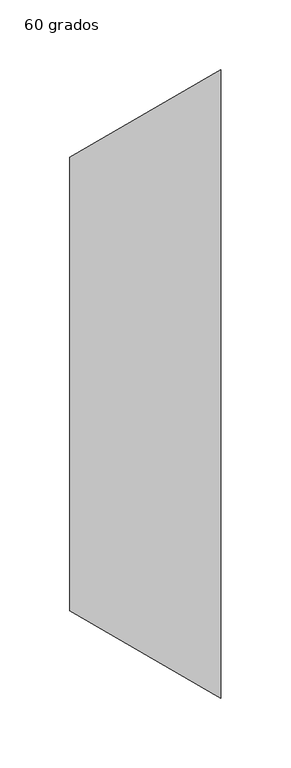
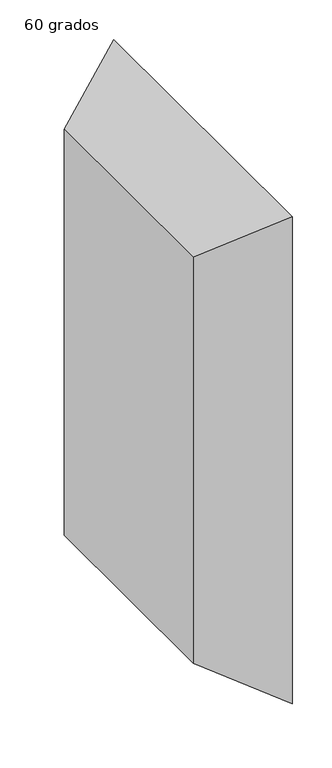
"""IFC4 building model written with IfcOpenShell, lengths in millimetres: duct fitting geometry, M_Transición rectangular - Ángulo : 60 grados."""

from ifc_helpers import new_model, si_unit, origin, place, context, project, spatial, faceted_brep, source, transform, mapped, element, save


def duct_fitting_60_grados_d5850524(model_context):
    return source(origin(), model_context, "Body", "Brep", [
        faceted_brep([(108.2531755, -225.0, 375.0), (108.2531755, -225.0, -375.0), (108.2531755, 225.0, -375.0), (108.2531755, 225.0, 375.0), (0.0, -162.5, 312.5), (0.0, 162.5, 312.5), (0.0, 162.5, -312.5), (0.0, -162.5, -312.5)], [[[0, 1, 2, 3]], [[4, 5, 6, 7]], [[4, 7, 1, 0]], [[7, 6, 2, 1]], [[6, 5, 3, 2]], [[5, 4, 0, 3]]]),
    ])


if __name__ == "__main__":
    model = new_model("IFC4")
    model_context = context("Model", 3, world=origin())
    ifc_project = project(units=[si_unit("LENGTHUNIT", "METRE", prefix="MILLI")], contexts=[model_context])
    site = spatial("IfcSite", under=ifc_project)
    building = spatial("IfcBuilding", under=site)
    placement = place(None, origin())
    duct_fitting_60_grados_shape = duct_fitting_60_grados_d5850524(model_context)
    element("IfcDuctFitting", 1, ObjectType="M_Transición rectangular - Ángulo : 60 grados", at=placement, inside=building, context=model_context, shape_type="MappedRepresentation", body=[
        mapped(duct_fitting_60_grados_shape, transform((0.0, 0.0, 0.0), x_axis=(1.0, 0.0, 0.0), y_axis=(0.0, 1.0, 0.0), z_axis=(0.0, 0.0, 1.0))),
    ])
    save(model, "model.ifc")
